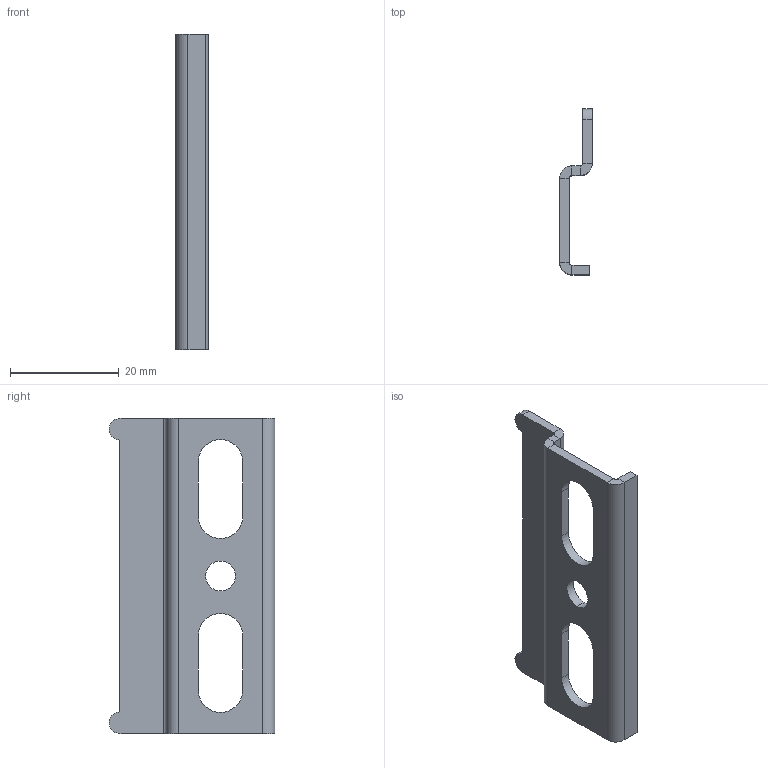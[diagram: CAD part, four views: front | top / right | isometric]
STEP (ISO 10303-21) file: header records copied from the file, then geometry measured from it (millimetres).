
FILE_DESCRIPTION (( 'STEP AP203' ), '1' );
FILE_NAME ('Aufhängeschiene_Typ3_D8310300192~0.step', '2012-05-04T06:20:45', ( 'admin' ), ( 'Hewlett-Packard Company' ), 'SwSTEP 2.0', 'SolidWorks 2011', '' );
FILE_SCHEMA (( 'CONFIG_CONTROL_DESIGN' ));
Length unit declared in the file: millimetre
Products named in the file (1): Aufhängeschiene_Typ3_D8310300192~0
Bounding box: 6 x 30.5 x 58 mm (x, y, z)
Volume: 3033.6 mm3; surface area: 3989.9 mm2
Topology: 1 solids, 1 shells, 44 faces, 102 edges, 60 vertices
Faces by surface type: plane 28, cylinder 16
Entity records: 1315 total; most frequent: DIRECTION 224, CARTESIAN_POINT 207, ORIENTED_EDGE 204, EDGE_CURVE 102, AXIS2_PLACEMENT_3D 77, LINE 70, VECTOR 70, VERTEX_POINT 60
